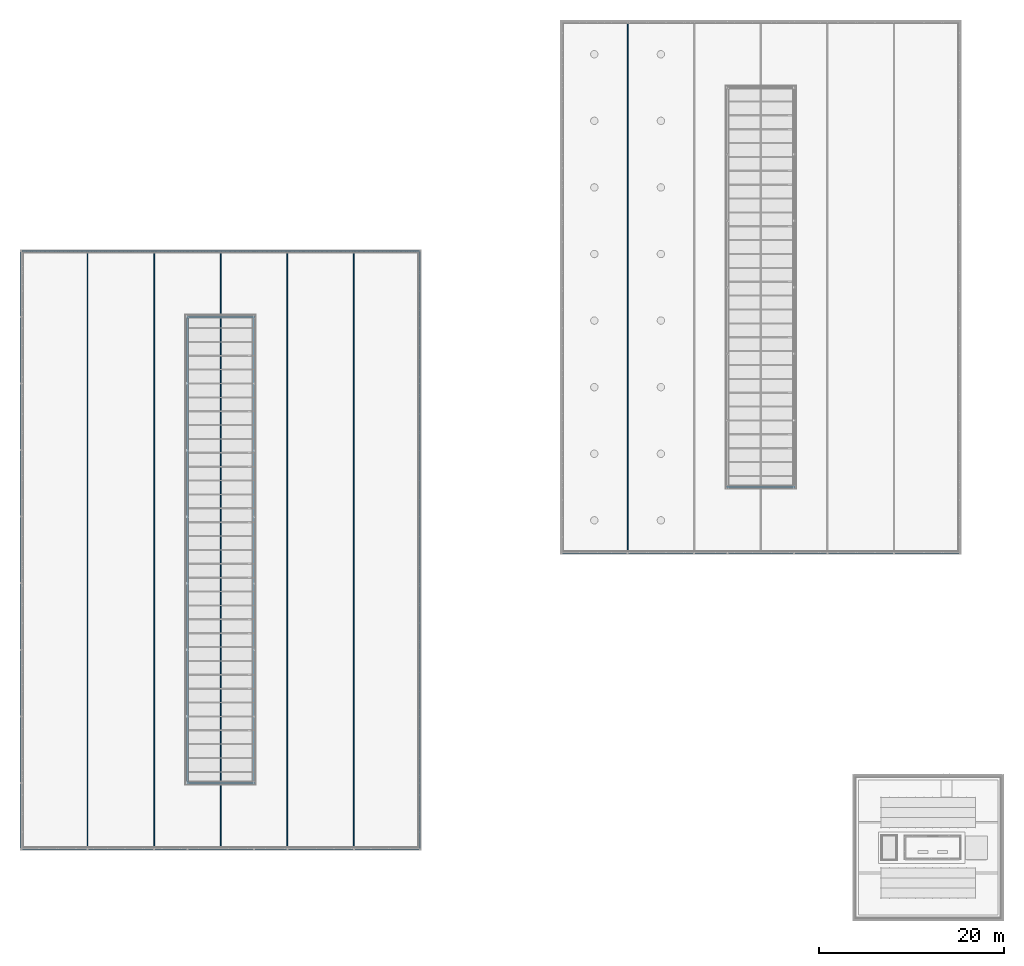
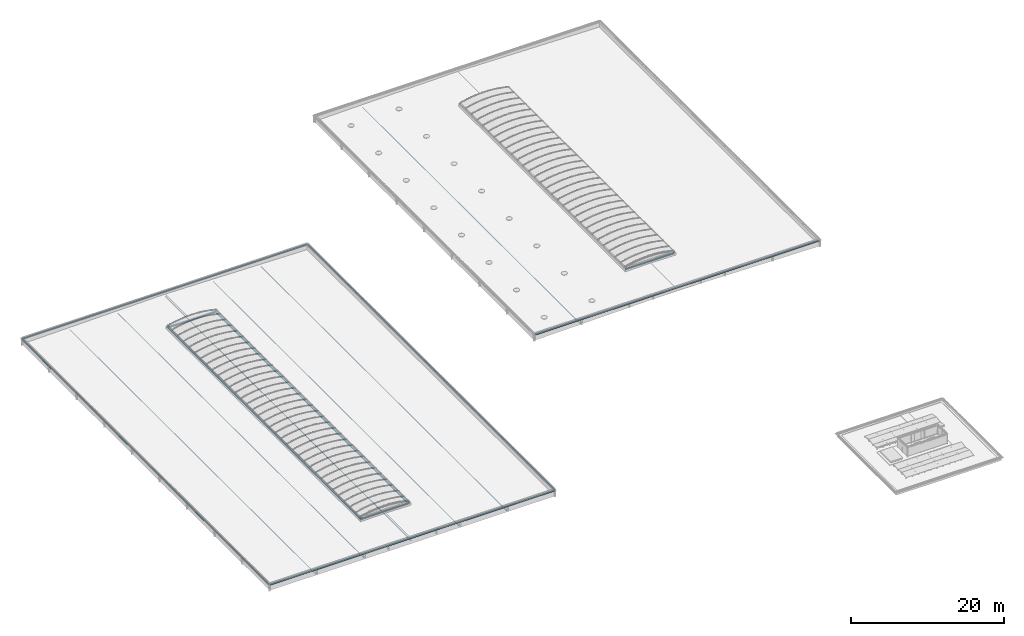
# One storey, part 1 of 81: 16 beams.
"""IFC2X3 building model written with IfcOpenShell, lengths in millimetres."""

from ifc_helpers import new_model, entity, si_unit, converted_unit, derived_unit, money_unit, direction, frame, origin_with_axes, place, context, subcontext, project, spatial, faceted_brep, source, transform, mapped, material, type_object, type_shapes, element, save


model = new_model("IFC2X3")

# Units and contexts
model_context = context("Model", 3, precision=0.01, world=origin_with_axes(), true_north=direction((0.0, 1.0)))
body_context = subcontext(model_context, "Body", "Model", "MODEL_VIEW")
ifc_project = project(units=[si_unit("LENGTHUNIT", "METRE", prefix="MILLI"), si_unit("AREAUNIT", "SQUARE_METRE"), si_unit("VOLUMEUNIT", "CUBIC_METRE"), converted_unit("PLANEANGLEUNIT", "DEGREE", entity("IfcPlaneAngleMeasure", 0.0174532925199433), si_unit("PLANEANGLEUNIT", "RADIAN"), dimensions=[0, 0, 0, 0, 0, 0, 0]), money_unit("EUR"), converted_unit("TIMEUNIT", "Year", entity("IfcTimeMeasure", 31557600.0), si_unit("TIMEUNIT", "SECOND"), dimensions=[0, 0, 1, 0, 0, 0, 0]), si_unit("MASSUNIT", "GRAM", prefix="KILO"), si_unit("THERMODYNAMICTEMPERATUREUNIT", "DEGREE_CELSIUS"), si_unit("LUMINOUSINTENSITYUNIT", "LUMEN"), si_unit("ENERGYUNIT", "JOULE", prefix="MEGA"), derived_unit("THERMALCONDUCTANCEUNIT", [(si_unit("POWERUNIT", "WATT"), 1), (si_unit("LENGTHUNIT", "METRE"), -1), (si_unit("THERMODYNAMICTEMPERATUREUNIT", "KELVIN"), -1)]), derived_unit("SPECIFICHEATCAPACITYUNIT", [(si_unit("ENERGYUNIT", "JOULE"), 1), (si_unit("MASSUNIT", "GRAM", prefix="KILO"), -1), (si_unit("THERMODYNAMICTEMPERATUREUNIT", "KELVIN"), -1)]), derived_unit("MASSDENSITYUNIT", [(si_unit("MASSUNIT", "GRAM", prefix="KILO"), 1), (si_unit("VOLUMEUNIT", "CUBIC_METRE"), -1)])], contexts=[model_context])

# Site, building, storey
site_placement = place(None, origin_with_axes())
site = spatial("IfcSite", under=ifc_project, at=site_placement, Name="Site", CompositionType="ELEMENT")
building_placement = place(site_placement, origin_with_axes())
building = spatial("IfcBuilding", under=site, at=building_placement, Name="Naam gebouw", CompositionType="ELEMENT")
storey_placement = place(building_placement, frame((0.0, 0.0, 15320.0), z_axis=(0.0, 0.0, 1.0), x_axis=(1.0, 0.0, 0.0)))
storey = spatial("IfcBuildingStorey", under=building, at=storey_placement, Name="01 dak", CompositionType="ELEMENT", Elevation=15320.0)

# Beams
ifc_material = material(Name="Metaal - Staal AFW")
beam_type_1 = type_object("IfcBeamType", Name="HEA balk 27", PredefinedType="BEAM")
shared_shape_1 = source(origin_with_axes(), body_context, "Body", "Brep", [
    faceted_brep([(0.0, 0.0, -80.0), (-64480.00000000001, 0.0, -79.99999999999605), (-64480.00000000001, 0.0, 80.00000000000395), (0.0, 0.0, 80.0), (0.0, -9.000000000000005, -80.0), (-64480.00000000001, -9.000000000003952, -79.99999999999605), (-64480.00000000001, -9.00000000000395, -17.99999999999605), (-64480.00000000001, -9.288220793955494, -15.07364516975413), (-64480.00000000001, -10.14180701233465, -12.2597485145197), (-64480.00000000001, -11.52795581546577, -9.666446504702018), (-64480.00000000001, -13.39339828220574, -7.393398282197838), (-64480.00000000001, -15.66644650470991, -5.527955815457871), (-64480.00000000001, -18.2597485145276, -4.141807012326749), (-64480.00000000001, -21.07364516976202, -3.288220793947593), (-64480.00000000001, -24.00000000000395, -2.99999999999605), (-64480.00000000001, -128.000000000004, -2.999999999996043), (-64480.00000000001, -130.9263548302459, -3.288220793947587), (-64480.00000000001, -133.7402514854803, -4.141807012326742), (-64480.00000000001, -136.333553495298, -5.527955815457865), (-64480.00000000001, -138.6066017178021, -7.393398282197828), (-64480.00000000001, -140.4720441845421, -9.66644650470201), (-64480.00000000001, -141.8581929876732, -12.25974851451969), (-64480.00000000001, -142.7117792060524, -15.07364516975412), (-64480.00000000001, -143.000000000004, -17.99999999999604), (-64480.00000000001, -143.0000000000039, -79.99999999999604), (-64480.00000000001, -152.000000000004, -79.99999999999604), (-64480.00000000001, -152.000000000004, 80.00000000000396), (-64480.00000000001, -143.0000000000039, 80.00000000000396), (-64480.00000000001, -143.000000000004, 18.00000000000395), (-64480.00000000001, -142.7117792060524, 15.07364516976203), (-64480.00000000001, -141.8581929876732, 12.25974851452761), (-64480.00000000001, -140.4720441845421, 9.666446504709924), (-64480.00000000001, -138.6066017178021, 7.393398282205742), (-64480.00000000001, -136.333553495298, 5.527955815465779), (-64480.00000000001, -133.7402514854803, 4.141807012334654), (-64480.00000000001, -130.9263548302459, 3.288220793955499), (-64480.00000000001, -128.000000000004, 3.000000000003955), (-64480.00000000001, -24.00000000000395, 3.000000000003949), (-64480.00000000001, -21.07364516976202, 3.288220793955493), (-64480.00000000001, -18.2597485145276, 4.141807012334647), (-64480.00000000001, -15.66644650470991, 5.52795581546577), (-64480.00000000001, -13.39339828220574, 7.393398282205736), (-64480.00000000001, -11.52795581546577, 9.666446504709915), (-64480.00000000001, -10.14180701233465, 12.2597485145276), (-64480.00000000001, -9.28822079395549, 15.07364516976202), (-64480.00000000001, -9.000000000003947, 18.00000000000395), (-64480.00000000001, -9.000000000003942, 80.00000000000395), (0.0, -8.999999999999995, 80.0), (0.0, -9.0, 18.0), (0.0, -9.288220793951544, 15.07364516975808), (0.0, -10.1418070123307, 12.25974851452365), (0.0, -11.52795581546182, 9.666446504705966), (0.0, -13.39339828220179, 7.393398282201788), (0.0, -15.66644650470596, 5.527955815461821), (0.0, -18.25974851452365, 4.141807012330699), (0.0, -21.07364516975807, 3.288220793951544), (0.0, -24.0, 3.0), (0.0, -128.0, 3.000000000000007), (0.0, -130.9263548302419, 3.288220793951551), (0.0, -133.7402514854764, 4.141807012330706), (0.0, -136.333553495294, 5.527955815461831), (0.0, -138.6066017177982, 7.393398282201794), (0.0, -140.4720441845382, 9.666446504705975), (0.0, -141.8581929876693, 12.25974851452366), (0.0, -142.7117792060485, 15.07364516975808), (0.0, -143.0, 18.00000000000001), (0.0, -143.0, 80.00000000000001), (0.0, -152.0, 80.00000000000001), (0.0, -152.0, -79.99999999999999), (0.0, -143.0, -79.99999999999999), (0.0, -143.0, -17.99999999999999), (0.0, -142.7117792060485, -15.07364516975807), (0.0, -141.8581929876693, -12.25974851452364), (0.0, -140.4720441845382, -9.666446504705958), (0.0, -138.6066017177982, -7.393398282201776), (0.0, -136.333553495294, -5.527955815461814), (0.0, -133.7402514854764, -4.14180701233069), (0.0, -130.9263548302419, -3.288220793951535), (0.0, -128.0, -2.999999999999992), (0.0, -24.0, -2.999999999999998), (0.0, -21.07364516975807, -3.288220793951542), (0.0, -18.25974851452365, -4.141807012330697), (0.0, -15.66644650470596, -5.527955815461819), (0.0, -13.39339828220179, -7.393398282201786), (0.0, -11.52795581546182, -9.666446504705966), (0.0, -10.1418070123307, -12.25974851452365), (0.0, -9.288220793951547, -15.07364516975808), (0.0, -9.000000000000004, -18.0)], [[[0, 1, 2, 3]], [[4, 5, 1, 0]], [[1, 5, 6, 7, 8, 9, 10, 11, 12, 13, 14, 15, 16, 17, 18, 19, 20, 21, 22, 23, 24, 25, 26, 27, 28, 29, 30, 31, 32, 33, 34, 35, 36, 37, 38, 39, 40, 41, 42, 43, 44, 45, 46, 2]], [[3, 2, 46, 47]], [[0, 3, 47, 48, 49, 50, 51, 52, 53, 54, 55, 56, 57, 58, 59, 60, 61, 62, 63, 64, 65, 66, 67, 68, 69, 70, 71, 72, 73, 74, 75, 76, 77, 78, 79, 80, 81, 82, 83, 84, 85, 86, 87, 4]], [[87, 6, 5, 4]], [[86, 7, 6, 87]], [[85, 8, 7, 86]], [[84, 9, 8, 85]], [[83, 10, 9, 84]], [[82, 11, 10, 83]], [[81, 12, 11, 82]], [[80, 13, 12, 81]], [[79, 14, 13, 80]], [[78, 15, 14, 79]], [[77, 16, 15, 78]], [[76, 17, 16, 77]], [[75, 18, 17, 76]], [[74, 19, 18, 75]], [[73, 20, 19, 74]], [[72, 21, 20, 73]], [[71, 22, 21, 72]], [[70, 23, 22, 71]], [[69, 24, 23, 70]], [[68, 25, 24, 69]], [[67, 26, 25, 68]], [[66, 27, 26, 67]], [[65, 28, 27, 66]], [[64, 29, 28, 65]], [[63, 30, 29, 64]], [[62, 31, 30, 63]], [[61, 32, 31, 62]], [[60, 33, 32, 61]], [[59, 34, 33, 60]], [[58, 35, 34, 59]], [[57, 36, 35, 58]], [[56, 37, 36, 57]], [[55, 38, 37, 56]], [[54, 39, 38, 55]], [[53, 40, 39, 54]], [[52, 41, 40, 53]], [[51, 42, 41, 52]], [[50, 43, 42, 51]], [[49, 44, 43, 50]], [[48, 45, 44, 49]], [[47, 46, 45, 48]]]),
])
for number, where, z_axis, x_axis, name in (
    (1, (68499.99999999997, 30160.0, 574.9606402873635), (0.0, 0.0, 1.0), (0.0, -1.0, 0.0), "HEA160"),
    (2, (25451.99999999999, 30160.0, 574.9606402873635), (0.0, 0.0, 1.0), (0.0, -1.0, 0.0), "HEA160"),
):
    element("IfcBeam", number, at=place(storey_placement, frame(where, z_axis=z_axis, x_axis=x_axis)), inside=storey, type_object=beam_type_1, material=ifc_material, Name=name, ObjectType="BEAM", context=body_context, shape_type="MappedRepresentation", body=[
        mapped(shared_shape_1, transform((0.0, 0.0, 0.0))),
    ])
beam_type_2 = type_object("IfcBeamType", Name="Buis vk koudgev balk 27", PredefinedType="BEAM")
shared_shape_2 = source(origin_with_axes(), body_context, "Body", "Brep", [
    faceted_brep([(0.0, -37.0, 0.0), (-64219.99999999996, -37.00000000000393, 0.0), (-64219.99999999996, 36.99999999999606, 0.0), (0.0, 37.0, 0.0), (0.0, -42.65685424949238, 2.343145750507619), (-64219.99999999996, -42.65685424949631, 2.343145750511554), (-64219.99999999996, -45.00000000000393, 8.000000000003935), (-64219.99999999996, -45.00000000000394, 82.00000000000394), (-64219.99999999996, -42.65685424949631, 87.65685424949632), (-64219.99999999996, -37.00000000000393, 90.00000000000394), (-64219.99999999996, 36.99999999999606, 90.00000000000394), (-64219.99999999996, 42.65685424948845, 87.65685424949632), (-64219.99999999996, 44.99999999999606, 82.00000000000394), (-64219.99999999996, 44.99999999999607, 8.000000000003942), (-64219.99999999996, 42.65685424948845, 2.343145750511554), (-64219.99999999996, -37.00000000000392, 4.000000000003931), (-64219.99999999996, 36.99999999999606, 4.000000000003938), (-64219.99999999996, 39.82842712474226, 5.171572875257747), (-64219.99999999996, 40.99999999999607, 8.000000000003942), (-64219.99999999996, 40.99999999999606, 82.00000000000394), (-64219.99999999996, 39.82842712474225, 84.82842712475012), (-64219.99999999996, 36.99999999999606, 86.00000000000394), (-64219.99999999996, -37.00000000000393, 86.00000000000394), (-64219.99999999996, -39.82842712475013, 84.8284271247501), (-64219.99999999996, -41.00000000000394, 82.00000000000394), (-64219.99999999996, -41.00000000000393, 8.000000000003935), (-64219.99999999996, -39.82842712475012, 5.17157287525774), (0.0, 42.65685424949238, 2.343145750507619), (0.0, 45.00000000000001, 8.000000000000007), (0.0, 45.0, 81.99999999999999), (0.0, 42.65685424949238, 87.65685424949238), (0.0, 36.99999999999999, 90.0), (0.0, -37.0, 90.0), (0.0, -42.65685424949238, 87.65685424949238), (0.0, -45.00000000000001, 81.99999999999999), (0.0, -45.0, 8.0), (0.0, -36.99999999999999, 3.999999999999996), (0.0, -39.82842712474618, 5.171572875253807), (0.0, -40.99999999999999, 8.0), (0.0, -41.0, 81.99999999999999), (0.0, -39.82842712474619, 84.82842712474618), (0.0, -37.0, 86.0), (0.0, 36.99999999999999, 86.0), (0.0, 39.82842712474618, 84.8284271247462), (0.0, 40.99999999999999, 81.99999999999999), (0.0, 41.0, 8.000000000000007), (0.0, 39.82842712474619, 5.171572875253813), (0.0, 37.0, 4.000000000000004)], [[[0, 1, 2, 3]], [[4, 5, 1, 0]], [[1, 5, 6, 7, 8, 9, 10, 11, 12, 13, 14, 2], [15, 16, 17, 18, 19, 20, 21, 22, 23, 24, 25, 26]], [[3, 2, 14, 27]], [[0, 3, 27, 28, 29, 30, 31, 32, 33, 34, 35, 4], [36, 37, 38, 39, 40, 41, 42, 43, 44, 45, 46, 47]], [[35, 6, 5, 4]], [[34, 7, 6, 35]], [[33, 8, 7, 34]], [[32, 9, 8, 33]], [[31, 10, 9, 32]], [[30, 11, 10, 31]], [[29, 12, 11, 30]], [[28, 13, 12, 29]], [[27, 14, 13, 28]], [[47, 16, 15, 36]], [[46, 17, 16, 47]], [[45, 18, 17, 46]], [[44, 19, 18, 45]], [[43, 20, 19, 44]], [[42, 21, 20, 43]], [[41, 22, 21, 42]], [[40, 23, 22, 41]], [[39, 24, 23, 40]], [[38, 25, 24, 39]], [[37, 26, 25, 38]], [[36, 15, 26, 37]]]),
])
for number, where, z_axis, x_axis, name in (
    (3, (32499.99999999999, 30300.00000000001, -380.0000000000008), (0.0, 0.0, 1.0), (0.0, -1.0, 0.0), "K90x4"),
    (4, (61299.99999999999, 30300.00000000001, -380.0000000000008), (0.0, 0.0, 1.0), (0.0, -1.0, 0.0), "K90x4"),
    (5, (39699.99999999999, 30300.00000000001, -245.000000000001), (0.0, 0.0, 1.0), (0.0, -1.0, 0.0), "K90x4"),
    (6, (54100.0, 30300.00000000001, -245.000000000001), (0.0, 0.0, 1.0), (0.0, -1.0, 0.0), "K90x4"),
    (7, (46900.00000000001, 30300.00000000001, -110.0000000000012), (0.0, 0.0, 1.0), (0.0, -1.0, 0.0), "K90x4"),
):
    element("IfcBeam", number, at=place(storey_placement, frame(where, z_axis=z_axis, x_axis=x_axis)), inside=storey, type_object=beam_type_2, material=ifc_material, Name=name, ObjectType="BEAM", context=body_context, shape_type="MappedRepresentation", body=[
        mapped(shared_shape_2, transform((0.0, 0.0, 0.0))),
    ])
shared_shape_3 = source(origin_with_axes(), body_context, "Body", "Brep", [
    faceted_brep([(0.0, -37.0, 0.0), (-57019.99999999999, -37.00000000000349, 0.0), (-57019.99999999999, 36.99999999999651, 0.0), (0.0, 37.0, 0.0), (0.0, -42.65685424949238, 2.343145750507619), (-57019.99999999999, -42.65685424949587, 2.34314575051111), (-57019.99999999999, -45.00000000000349, 8.00000000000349), (-57019.99999999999, -45.0000000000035, 82.00000000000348), (-57019.99999999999, -42.65685424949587, 87.65685424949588), (-57019.99999999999, -37.00000000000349, 90.0000000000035), (-57019.99999999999, 36.9999999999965, 90.0000000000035), (-57019.99999999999, 42.65685424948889, 87.65685424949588), (-57019.99999999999, 44.99999999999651, 82.00000000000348), (-57019.99999999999, 44.99999999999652, 8.000000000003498), (-57019.99999999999, 42.65685424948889, 2.34314575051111), (-57019.99999999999, -37.00000000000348, 4.000000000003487), (-57019.99999999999, 36.99999999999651, 4.000000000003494), (-57019.99999999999, 39.8284271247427, 5.171572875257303), (-57019.99999999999, 40.99999999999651, 8.000000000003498), (-57019.99999999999, 40.9999999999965, 82.00000000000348), (-57019.99999999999, 39.8284271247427, 84.82842712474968), (-57019.99999999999, 36.9999999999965, 86.0000000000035), (-57019.99999999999, -37.00000000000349, 86.0000000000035), (-57019.99999999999, -39.82842712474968, 84.82842712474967), (-57019.99999999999, -41.00000000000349, 82.00000000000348), (-57019.99999999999, -41.00000000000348, 8.00000000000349), (-57019.99999999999, -39.82842712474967, 5.171572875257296), (0.0, 42.65685424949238, 2.343145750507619), (0.0, 45.00000000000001, 8.000000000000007), (0.0, 45.0, 81.99999999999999), (0.0, 42.65685424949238, 87.65685424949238), (0.0, 36.99999999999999, 90.0), (0.0, -37.0, 90.0), (0.0, -42.65685424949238, 87.65685424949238), (0.0, -45.00000000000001, 81.99999999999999), (0.0, -45.0, 8.0), (0.0, -36.99999999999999, 3.999999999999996), (0.0, -39.82842712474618, 5.171572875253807), (0.0, -40.99999999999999, 8.0), (0.0, -41.0, 81.99999999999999), (0.0, -39.82842712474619, 84.82842712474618), (0.0, -37.0, 86.0), (0.0, 36.99999999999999, 86.0), (0.0, 39.82842712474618, 84.8284271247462), (0.0, 40.99999999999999, 81.99999999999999), (0.0, 41.0, 8.000000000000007), (0.0, 39.82842712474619, 5.171572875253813), (0.0, 37.0, 4.000000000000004)], [[[0, 1, 2, 3]], [[4, 5, 1, 0]], [[1, 5, 6, 7, 8, 9, 10, 11, 12, 13, 14, 2], [15, 16, 17, 18, 19, 20, 21, 22, 23, 24, 25, 26]], [[3, 2, 14, 27]], [[0, 3, 27, 28, 29, 30, 31, 32, 33, 34, 35, 4], [36, 37, 38, 39, 40, 41, 42, 43, 44, 45, 46, 47]], [[35, 6, 5, 4]], [[34, 7, 6, 35]], [[33, 8, 7, 34]], [[32, 9, 8, 33]], [[31, 10, 9, 32]], [[30, 11, 10, 31]], [[29, 12, 11, 30]], [[28, 13, 12, 29]], [[27, 14, 13, 28]], [[47, 16, 15, 36]], [[46, 17, 16, 47]], [[45, 18, 17, 46]], [[44, 19, 18, 45]], [[43, 20, 19, 44]], [[42, 21, 20, 43]], [[41, 22, 21, 42]], [[40, 23, 22, 41]], [[39, 24, 23, 40]], [[38, 25, 24, 39]], [[37, 26, 25, 38]], [[36, 15, 26, 37]]]),
])
type_shapes(beam_type_2, [shared_shape_2, shared_shape_3])
beam_placement = place(storey_placement, frame((90899.99999999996, 62300.00000000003, -372.9637134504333), z_axis=(0.0, 0.0, 1.0), x_axis=(0.0, -1.0, 0.0)))
element("IfcBeam", 8, at=beam_placement, inside=storey, type_object=beam_type_2, material=ifc_material, Name="K90x4", ObjectType="BEAM", context=body_context, shape_type="MappedRepresentation", body=[
    mapped(shared_shape_3, transform((0.0, 0.0, 0.0))),
])
shared_shape_4 = source(origin_with_axes(), body_context, "Body", "Brep", [
    faceted_brep([(0.0, -110.0, 0.0), (0.0, 110.0, 0.0), (50180.00000000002, 109.9999999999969, 0.0), (50180.00000000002, -110.0000000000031, 0.0), (0.0, -110.0, 11.0), (0.0, -21.5, 11.0), (0.0, -12.5, 13.4115427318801), (0.0, -5.911542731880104, 20.0), (0.0, -3.5, 29.0), (0.0, -3.5, 181.0), (0.0, -5.911542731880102, 190.0), (0.0, -12.5, 196.5884572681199), (0.0, -21.5, 199.0), (0.0, -110.0, 199.0), (0.0, -110.0, 210.0), (0.0, 110.0, 210.0), (0.0, 110.0, 199.0), (0.0, 21.5, 199.0), (0.0, 12.5, 196.5884572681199), (0.0, 5.911542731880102, 190.0), (0.0, 3.5, 181.0), (0.0, 3.5, 29.0), (0.0, 5.911542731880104, 20.0), (0.0, 12.5, 13.4115427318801), (0.0, 21.5, 11.0), (0.0, 110.0, 11.0), (50180.00000000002, 109.9999999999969, 11.00000000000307), (50180.00000000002, 21.49999999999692, 11.00000000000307), (50180.00000000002, 12.49999999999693, 13.41154273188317), (50180.00000000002, 5.911542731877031, 20.00000000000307), (50180.00000000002, 3.499999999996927, 29.00000000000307), (50180.00000000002, 3.499999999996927, 181.0000000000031), (50180.00000000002, 5.911542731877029, 190.0000000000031), (50180.00000000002, 12.49999999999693, 196.588457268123), (50180.00000000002, 21.49999999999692, 199.0000000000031), (50180.00000000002, 109.9999999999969, 199.0000000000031), (50180.00000000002, 109.9999999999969, 210.0000000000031), (50180.00000000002, -110.0000000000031, 210.0000000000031), (50180.00000000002, -110.0000000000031, 199.0000000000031), (50180.00000000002, -21.50000000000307, 199.0000000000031), (50180.00000000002, -12.50000000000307, 196.588457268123), (50180.00000000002, -5.911542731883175, 190.0000000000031), (50180.00000000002, -3.500000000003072, 181.0000000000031), (50180.00000000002, -3.500000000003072, 29.00000000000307), (50180.00000000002, -5.911542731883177, 20.00000000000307), (50180.00000000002, -12.50000000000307, 13.41154273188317), (50180.00000000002, -21.50000000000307, 11.00000000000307), (50180.00000000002, -110.0000000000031, 11.00000000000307)], [[[0, 1, 2, 3]], [[0, 4, 5, 6, 7, 8, 9, 10, 11, 12, 13, 14, 15, 16, 17, 18, 19, 20, 21, 22, 23, 24, 25, 1]], [[1, 25, 26, 2]], [[3, 2, 26, 27, 28, 29, 30, 31, 32, 33, 34, 35, 36, 37, 38, 39, 40, 41, 42, 43, 44, 45, 46, 47]], [[4, 0, 3, 47]], [[5, 4, 47, 46]], [[6, 5, 46, 45]], [[7, 6, 45, 44]], [[8, 7, 44, 43]], [[9, 8, 43, 42]], [[10, 9, 42, 41]], [[11, 10, 41, 40]], [[12, 11, 40, 39]], [[13, 12, 39, 38]], [[14, 13, 38, 37]], [[15, 14, 37, 36]], [[16, 15, 36, 35]], [[17, 16, 35, 34]], [[18, 17, 34, 33]], [[19, 18, 33, 32]], [[20, 19, 32, 31]], [[21, 20, 31, 30]], [[22, 21, 30, 29]], [[23, 22, 29, 28]], [[24, 23, 28, 27]], [[25, 24, 27, 26]]]),
])
for number, where, z_axis, x_axis, name in (
    (9, (43300.00000000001, 37310.0, 349.9999999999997), (0.0, 0.0, 1.0), (0.0, 1.0, 0.0), "HEA220"),
    (10, (50500.00000000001, 37310.0, 349.9999999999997), (0.0, 0.0, 1.0), (0.0, 1.0, 0.0), "HEA220"),
):
    element("IfcBeam", number, at=place(storey_placement, frame(where, z_axis=z_axis, x_axis=x_axis)), inside=storey, type_object=beam_type_1, material=ifc_material, Name=name, ObjectType="BEAM", context=body_context, shape_type="MappedRepresentation", body=[
        mapped(shared_shape_4, transform((0.0, 0.0, 0.0))),
    ])
shared_shape_5 = source(origin_with_axes(), body_context, "Body", "Brep", [
    faceted_brep([(0.0, -110.0, 0.0), (0.0, 110.0, 0.0), (7420.000000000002, 109.9999999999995, 0.0), (7420.000000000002, -110.0000000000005, 0.0), (0.0, -110.0, 11.0), (0.0, -21.5, 11.0), (0.0, -12.5, 13.4115427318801), (0.0, -5.911542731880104, 20.0), (0.0, -3.5, 29.0), (0.0, -3.5, 181.0), (0.0, -5.911542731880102, 190.0), (0.0, -12.5, 196.5884572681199), (0.0, -21.5, 199.0), (0.0, -110.0, 199.0), (0.0, -110.0, 210.0), (0.0, 110.0, 210.0), (0.0, 110.0, 199.0), (0.0, 21.5, 199.0), (0.0, 12.5, 196.5884572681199), (0.0, 5.911542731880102, 190.0), (0.0, 3.5, 181.0), (0.0, 3.5, 29.0), (0.0, 5.911542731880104, 20.0), (0.0, 12.5, 13.4115427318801), (0.0, 21.5, 11.0), (0.0, 110.0, 11.0), (7420.000000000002, 109.9999999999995, 11.00000000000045), (7420.000000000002, 21.49999999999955, 11.00000000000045), (7420.000000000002, 12.49999999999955, 13.41154273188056), (7420.000000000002, 5.911542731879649, 20.00000000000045), (7420.000000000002, 3.499999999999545, 29.00000000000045), (7420.000000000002, 3.499999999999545, 181.0000000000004), (7420.000000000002, 5.911542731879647, 190.0000000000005), (7420.000000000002, 12.49999999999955, 196.5884572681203), (7420.000000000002, 21.49999999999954, 199.0000000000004), (7420.000000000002, 109.9999999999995, 199.0000000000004), (7420.000000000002, 109.9999999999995, 210.0000000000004), (7420.000000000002, -110.0000000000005, 210.0000000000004), (7420.000000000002, -110.0000000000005, 199.0000000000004), (7420.000000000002, -21.50000000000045, 199.0000000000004), (7420.000000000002, -12.50000000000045, 196.5884572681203), (7420.000000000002, -5.911542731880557, 190.0000000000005), (7420.000000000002, -3.500000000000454, 181.0000000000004), (7420.000000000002, -3.500000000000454, 29.00000000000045), (7420.000000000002, -5.911542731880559, 20.00000000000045), (7420.000000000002, -12.50000000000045, 13.41154273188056), (7420.000000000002, -21.50000000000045, 11.00000000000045), (7420.000000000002, -110.0000000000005, 11.00000000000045)], [[[0, 1, 2, 3]], [[0, 4, 5, 6, 7, 8, 9, 10, 11, 12, 13, 14, 15, 16, 17, 18, 19, 20, 21, 22, 23, 24, 25, 1]], [[1, 25, 26, 2]], [[3, 2, 26, 27, 28, 29, 30, 31, 32, 33, 34, 35, 36, 37, 38, 39, 40, 41, 42, 43, 44, 45, 46, 47]], [[4, 0, 3, 47]], [[5, 4, 47, 46]], [[6, 5, 46, 45]], [[7, 6, 45, 44]], [[8, 7, 44, 43]], [[9, 8, 43, 42]], [[10, 9, 42, 41]], [[11, 10, 41, 40]], [[12, 11, 40, 39]], [[13, 12, 39, 38]], [[14, 13, 38, 37]], [[15, 14, 37, 36]], [[16, 15, 36, 35]], [[17, 16, 35, 34]], [[18, 17, 34, 33]], [[19, 18, 33, 32]], [[20, 19, 32, 31]], [[21, 20, 31, 30]], [[22, 21, 30, 29]], [[23, 22, 29, 28]], [[24, 23, 28, 27]], [[25, 24, 27, 26]]]),
])
for number, where, z_axis, x_axis, name in (
    (11, (50610.00000000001, 37200.0, 349.9999999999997), (0.0, 0.0, 1.0), (-1.0, 0.0, 0.0), "HEA220"),
    (12, (50610.00000000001, 87600.00000000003, 349.9999999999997), (0.0, 0.0, 1.0), (-1.0, 0.0, 0.0), "HEA220"),
    (13, (109010.0, 69200.0, 349.9999999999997), (0.0, 0.0, 1.0), (-1.0, 0.0, 0.0), "HEA220"),
):
    element("IfcBeam", number, at=place(storey_placement, frame(where, z_axis=z_axis, x_axis=x_axis)), inside=storey, type_object=beam_type_1, material=ifc_material, Name=name, ObjectType="BEAM", context=body_context, shape_type="MappedRepresentation", body=[
        mapped(shared_shape_5, transform((0.0, 0.0, 0.0))),
    ])
shared_shape_6 = source(origin_with_axes(), body_context, "Body", "Brep", [
    faceted_brep([(0.0, 0.0, -80.0), (-42896.0, 0.0, -79.99999999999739), (-42896.0, 0.0, 80.00000000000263), (0.0, 0.0, 80.0), (0.0, -9.000000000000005, -80.0), (-42896.0, -9.00000000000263, -79.99999999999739), (-42896.0, -9.000000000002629, -17.99999999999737), (-42896.0, -9.288220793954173, -15.07364516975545), (-42896.0, -10.14180701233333, -12.25974851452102), (-42896.0, -11.52795581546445, -9.666446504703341), (-42896.0, -13.39339828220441, -7.39339828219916), (-42896.0, -15.66644650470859, -5.527955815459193), (-42896.0, -18.25974851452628, -4.141807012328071), (-42896.0, -21.0736451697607, -3.288220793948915), (-42896.0, -24.00000000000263, -2.999999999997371), (-42896.0, -128.0000000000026, -2.999999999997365), (-42896.0, -130.9263548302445, -3.288220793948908), (-42896.0, -133.740251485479, -4.141807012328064), (-42896.0, -136.3335534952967, -5.527955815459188), (-42896.0, -138.6066017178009, -7.39339828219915), (-42896.0, -140.4720441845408, -9.666446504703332), (-42896.0, -141.8581929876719, -12.25974851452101), (-42896.0, -142.7117792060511, -15.07364516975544), (-42896.0, -143.0000000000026, -17.99999999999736), (-42896.0, -143.0000000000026, -79.99999999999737), (-42896.0, -152.0000000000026, -79.99999999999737), (-42896.0, -152.0000000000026, 80.00000000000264), (-42896.0, -143.0000000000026, 80.00000000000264), (-42896.0, -143.0000000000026, 18.00000000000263), (-42896.0, -142.7117792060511, 15.07364516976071), (-42896.0, -141.8581929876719, 12.25974851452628), (-42896.0, -140.4720441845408, 9.666446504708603), (-42896.0, -138.6066017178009, 7.39339828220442), (-42896.0, -136.3335534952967, 5.527955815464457), (-42896.0, -133.740251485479, 4.141807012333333), (-42896.0, -130.9263548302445, 3.288220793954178), (-42896.0, -128.0000000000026, 3.000000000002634), (-42896.0, -24.00000000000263, 3.000000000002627), (-42896.0, -21.0736451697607, 3.288220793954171), (-42896.0, -18.25974851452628, 4.141807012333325), (-42896.0, -15.66644650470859, 5.527955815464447), (-42896.0, -13.39339828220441, 7.393398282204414), (-42896.0, -11.52795581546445, 9.666446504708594), (-42896.0, -10.14180701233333, 12.25974851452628), (-42896.0, -9.288220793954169, 15.0736451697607), (-42896.0, -9.000000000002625, 18.00000000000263), (-42896.0, -9.00000000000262, 80.00000000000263), (0.0, -8.999999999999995, 80.0), (0.0, -9.0, 18.0), (0.0, -9.288220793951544, 15.07364516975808), (0.0, -10.1418070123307, 12.25974851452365), (0.0, -11.52795581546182, 9.666446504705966), (0.0, -13.39339828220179, 7.393398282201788), (0.0, -15.66644650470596, 5.527955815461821), (0.0, -18.25974851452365, 4.141807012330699), (0.0, -21.07364516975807, 3.288220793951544), (0.0, -24.0, 3.0), (0.0, -128.0, 3.000000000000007), (0.0, -130.9263548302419, 3.288220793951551), (0.0, -133.7402514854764, 4.141807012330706), (0.0, -136.333553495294, 5.527955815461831), (0.0, -138.6066017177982, 7.393398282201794), (0.0, -140.4720441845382, 9.666446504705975), (0.0, -141.8581929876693, 12.25974851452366), (0.0, -142.7117792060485, 15.07364516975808), (0.0, -143.0, 18.00000000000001), (0.0, -143.0, 80.00000000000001), (0.0, -152.0, 80.00000000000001), (0.0, -152.0, -79.99999999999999), (0.0, -143.0, -79.99999999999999), (0.0, -143.0, -17.99999999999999), (0.0, -142.7117792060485, -15.07364516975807), (0.0, -141.8581929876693, -12.25974851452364), (0.0, -140.4720441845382, -9.666446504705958), (0.0, -138.6066017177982, -7.393398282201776), (0.0, -136.333553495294, -5.527955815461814), (0.0, -133.7402514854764, -4.14180701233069), (0.0, -130.9263548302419, -3.288220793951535), (0.0, -128.0, -2.999999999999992), (0.0, -24.0, -2.999999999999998), (0.0, -21.07364516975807, -3.288220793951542), (0.0, -18.25974851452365, -4.141807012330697), (0.0, -15.66644650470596, -5.527955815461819), (0.0, -13.39339828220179, -7.393398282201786), (0.0, -11.52795581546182, -9.666446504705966), (0.0, -10.1418070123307, -12.25974851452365), (0.0, -9.288220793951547, -15.07364516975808), (0.0, -9.000000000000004, -18.0)], [[[0, 1, 2, 3]], [[4, 5, 1, 0]], [[1, 5, 6, 7, 8, 9, 10, 11, 12, 13, 14, 15, 16, 17, 18, 19, 20, 21, 22, 23, 24, 25, 26, 27, 28, 29, 30, 31, 32, 33, 34, 35, 36, 37, 38, 39, 40, 41, 42, 43, 44, 45, 46, 2]], [[3, 2, 46, 47]], [[0, 3, 47, 48, 49, 50, 51, 52, 53, 54, 55, 56, 57, 58, 59, 60, 61, 62, 63, 64, 65, 66, 67, 68, 69, 70, 71, 72, 73, 74, 75, 76, 77, 78, 79, 80, 81, 82, 83, 84, 85, 86, 87, 4]], [[87, 6, 5, 4]], [[86, 7, 6, 87]], [[85, 8, 7, 86]], [[84, 9, 8, 85]], [[83, 10, 9, 84]], [[82, 11, 10, 83]], [[81, 12, 11, 82]], [[80, 13, 12, 81]], [[79, 14, 13, 80]], [[78, 15, 14, 79]], [[77, 16, 15, 78]], [[76, 17, 16, 77]], [[75, 18, 17, 76]], [[74, 19, 18, 75]], [[73, 20, 19, 74]], [[72, 21, 20, 73]], [[71, 22, 21, 72]], [[70, 23, 22, 71]], [[69, 24, 23, 70]], [[68, 25, 24, 69]], [[67, 26, 25, 68]], [[66, 27, 26, 67]], [[65, 28, 27, 66]], [[64, 29, 28, 65]], [[63, 30, 29, 64]], [[62, 31, 30, 63]], [[61, 32, 31, 62]], [[60, 33, 32, 61]], [[59, 34, 33, 60]], [[58, 35, 34, 59]], [[57, 36, 35, 58]], [[56, 37, 36, 57]], [[55, 38, 37, 56]], [[54, 39, 38, 55]], [[53, 40, 39, 54]], [[52, 41, 40, 53]], [[51, 42, 41, 52]], [[50, 43, 42, 51]], [[49, 44, 43, 50]], [[48, 45, 44, 49]], [[47, 46, 45, 48]]]),
])
type_shapes(beam_type_1, [shared_shape_1, shared_shape_4, shared_shape_5, shared_shape_6])
for number, where, z_axis, x_axis, name in (
    (14, (68348.0, 94800.00000000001, 574.9606402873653), (0.0, 0.0, 1.0), (1.0, 0.0, 0.0), "HEA160"),
    (15, (68348.0, 30152.0, 574.9606402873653), (0.0, 0.0, 1.0), (1.0, 0.0, 0.0), "HEA160"),
    (16, (126748.0, 62152.0, 574.960640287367), (0.0, 0.0, 1.0), (1.0, 0.0, 0.0), "HEA160"),
):
    element("IfcBeam", number, at=place(storey_placement, frame(where, z_axis=z_axis, x_axis=x_axis)), inside=storey, type_object=beam_type_1, material=ifc_material, Name=name, ObjectType="BEAM", context=body_context, shape_type="MappedRepresentation", body=[
        mapped(shared_shape_6, transform((0.0, 0.0, 0.0))),
    ])

save(model, "model.ifc")
